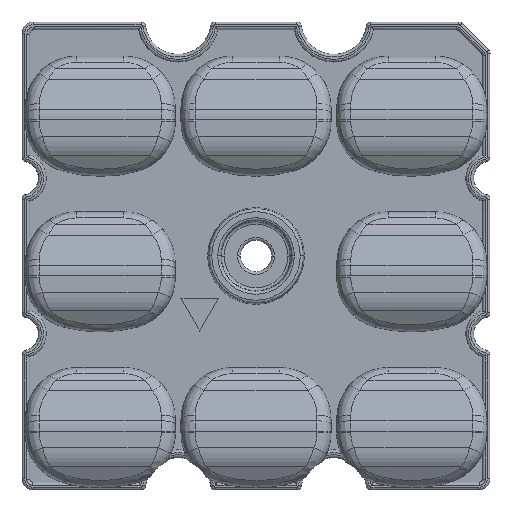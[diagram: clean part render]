
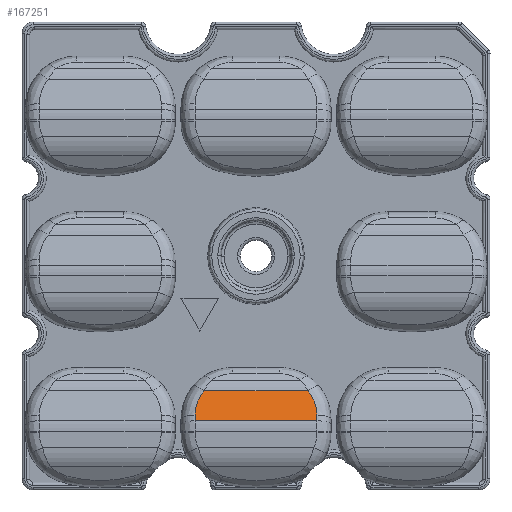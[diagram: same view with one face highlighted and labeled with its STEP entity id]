
A CAD part, top view. The second image highlights one B-rep face of the part: STEP entity #167251.
In plain terms, the highlighted planar face has unit normal (0, 0.278, 0.961).
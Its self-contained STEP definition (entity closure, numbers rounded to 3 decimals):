
#47126=CARTESIAN_POINT(' ',(6.5,-17.583,3.513));
#47127=VERTEX_POINT(' ',#47126);
#47631=CARTESIAN_POINT(' ',(6.5,-17.583,3.513));
#47636=DIRECTION(' ',(0.,0.961,-0.278));
#47641=VECTOR(' ',#47636,1.);
#47646=LINE('',#47631,#47641);
#47651=CARTESIAN_POINT(' ',(6.5,-16.972,3.336));
#47652=VERTEX_POINT(' ',#47651);
#47656=EDGE_CURVE(' ',#47127,#47652,#47646,.T.);
#112481=CARTESIAN_POINT(' ',(-6.5,-17.583,3.513));
#112482=VERTEX_POINT(' ',#112481);
#112746=CARTESIAN_POINT(' ',(-6.5,-16.972,3.336));
#112751=DIRECTION(' ',(0.,-0.961,0.278));
#112756=VECTOR(' ',#112751,1.);
#112761=LINE('',#112746,#112756);
#112766=CARTESIAN_POINT(' ',(-6.5,-16.972,3.336));
#112767=VERTEX_POINT(' ',#112766);
#112771=EDGE_CURVE(' ',#112767,#112482,#112761,.T.);
#113551=CARTESIAN_POINT(' ',(-5.548,-14.382,2.588));
#113552=VERTEX_POINT(' ',#113551);
#114701=CARTESIAN_POINT(' ',(-2.236,-16.962,3.333));
#114706=DIRECTION(' ',(0.,0.278,0.961));
#114711=DIRECTION(' ',(-0.777,0.605,-0.175));
#114716=AXIS2_PLACEMENT_3D(' ',#114701,#114706,#114711);
#114721=CIRCLE('',#114716,4.264);
#114726=EDGE_CURVE(' ',#113552,#112767,#114721,.T.);
#115591=CARTESIAN_POINT(' ',(5.548,-14.382,2.588));
#115592=VERTEX_POINT(' ',#115591);
#116136=CARTESIAN_POINT(' ',(2.232,-16.963,3.334));
#116141=DIRECTION(' ',(0.,0.278,0.961));
#116146=DIRECTION(' ',(1.,-0.002,0.001));
#116151=AXIS2_PLACEMENT_3D(' ',#116136,#116141,#116146);
#116156=CIRCLE('',#116151,4.268);
#116161=EDGE_CURVE(' ',#47652,#115592,#116156,.T.);
#166951=CARTESIAN_POINT(' ',(-6.5,-17.583,3.513));
#166956=DIRECTION(' ',(1.,0.,0.));
#166961=VECTOR(' ',#166956,1.);
#166966=LINE('',#166951,#166961);
#166971=EDGE_CURVE(' ',#112482,#47127,#166966,.T.);
#167161=DIRECTION(' ',(0.,0.278,0.961));
#167166=CARTESIAN_POINT(' ',(-6.5,-14.382,2.588));
#167171=DIRECTION(' ',(0.,-0.961,0.278));
#167176=AXIS2_PLACEMENT_3D(' ',#167166,#167161,#167171);
#167181=PLANE('',#167176);
#167186=ORIENTED_EDGE(' ',*,*,#116161,.T.);
#167191=CARTESIAN_POINT(' ',(5.548,-14.382,2.588));
#167196=DIRECTION(' ',(-1.,0.,0.));
#167201=VECTOR(' ',#167196,1.);
#167206=LINE('',#167191,#167201);
#167211=EDGE_CURVE(' ',#115592,#113552,#167206,.T.);
#167216=ORIENTED_EDGE(' ',*,*,#167211,.T.);
#167221=ORIENTED_EDGE(' ',*,*,#114726,.T.);
#167226=ORIENTED_EDGE(' ',*,*,#112771,.T.);
#167231=ORIENTED_EDGE(' ',*,*,#166971,.T.);
#167236=ORIENTED_EDGE(' ',*,*,#47656,.T.);
#167241=EDGE_LOOP(' ',(#167186,#167216,#167221,#167226,#167231,#167236));
#167246=FACE_OUTER_BOUND(' ',#167241,.T.);
#167251=ADVANCED_FACE('',(#167246),#167181,.T.);
